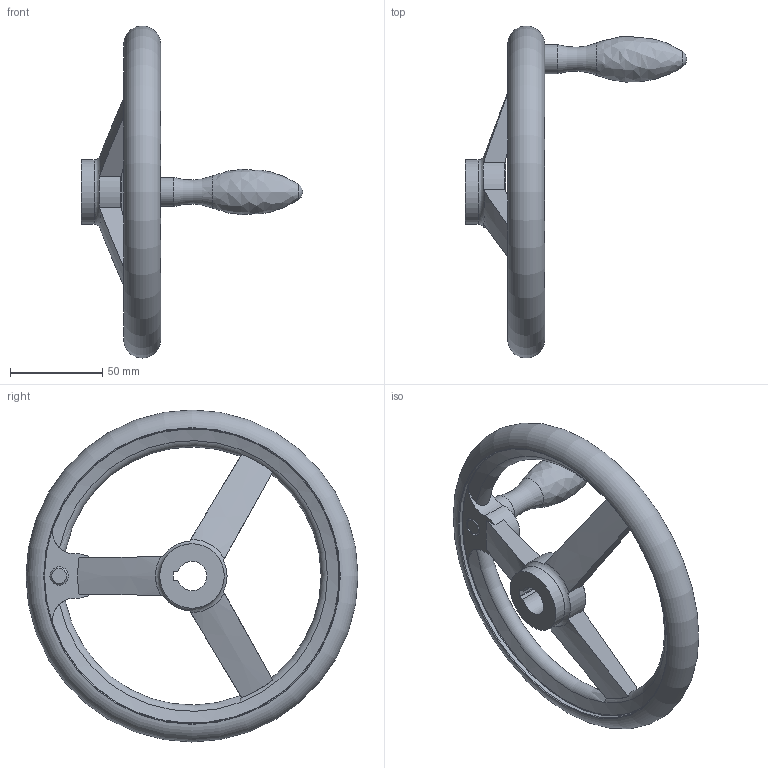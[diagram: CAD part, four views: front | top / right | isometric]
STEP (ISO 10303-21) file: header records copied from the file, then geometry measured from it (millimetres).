
FILE_DESCRIPTION( ( 'STEP AP203' ), '1' );
FILE_NAME( 'C:/Temp/Ganter_Step_05_03_2020/data/1_3/din_950/din_950_k/din_950_k_f/Handwheel DIN 950-AL-180-K16-F.stp', '2020-03-05T10:31:17', ( 'License CC BY-ND 4.0' ), ( 'CADENAS' ), ' ', 'PARTsolutions', ' ' );
FILE_SCHEMA( ( 'CONFIG_CONTROL_DESIGN' ) );
Length unit declared in the file: millimetre
Products named in the file (1): _Handwheel DIN 950-AL-180-K16-F
Bounding box: 120 x 179.99 x 179.99 mm (x, y, z)
Volume: 206960.4 mm3; surface area: 51309.4 mm2
Topology: 1 solids, 1 shells, 51 faces, 146 edges, 94 vertices
Faces by surface type: cylinder 15, plane 14, torus 13, cone 7, sphere 1, bspline 1
Full cylindrical faces by diameter (mm): 10 x1, 15.8 x1, 35 x2, 160 x2
Entity records: 1939 total; most frequent: CARTESIAN_POINT 704, ORIENTED_EDGE 240, DIRECTION 236, EDGE_CURVE 120, AXIS2_PLACEMENT_3D 106, VERTEX_POINT 88, EDGE_LOOP 74, FACE_OUTER_BOUND 66
